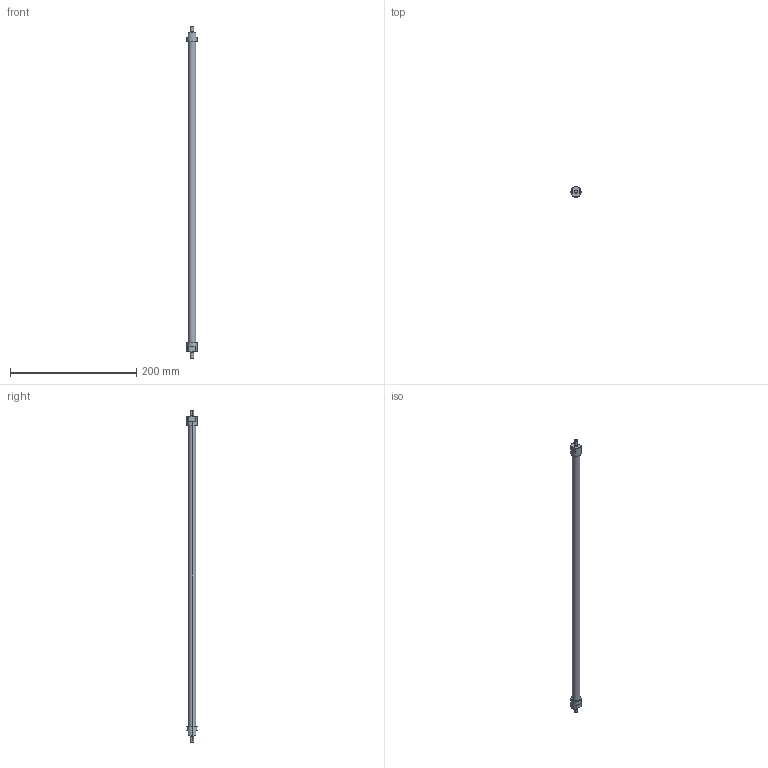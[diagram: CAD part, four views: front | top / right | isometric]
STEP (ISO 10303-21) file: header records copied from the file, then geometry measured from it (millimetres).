
FILE_DESCRIPTION(('STEP AP214'),'1');
FILE_NAME('ETT-R025N515.stp','2015-02-04T08:22:14',(' '),(' '),'Spatial InterOp 3D',' ',' ');
FILE_SCHEMA(('automotive_design'));
Length unit declared in the file: metre
Products named in the file (3): 1; 2; 3
Bounding box: 16 x 16 x 526 mm (x, y, z)
Volume: 59794.7 mm3; surface area: 20533.8 mm2
Topology: 1 solids, 7 shells, 30 faces, 81 edges, 63 vertices
Faces by surface type: plane 16, cylinder 14
Entity records: 1295 total; most frequent: DIRECTION 194, CARTESIAN_POINT 177, ORIENTED_EDGE 138, EDGE_CURVE 81, AXIS2_PLACEMENT_3D 80, VERTEX_POINT 63, CIRCLE 47, EDGE_LOOP 36
